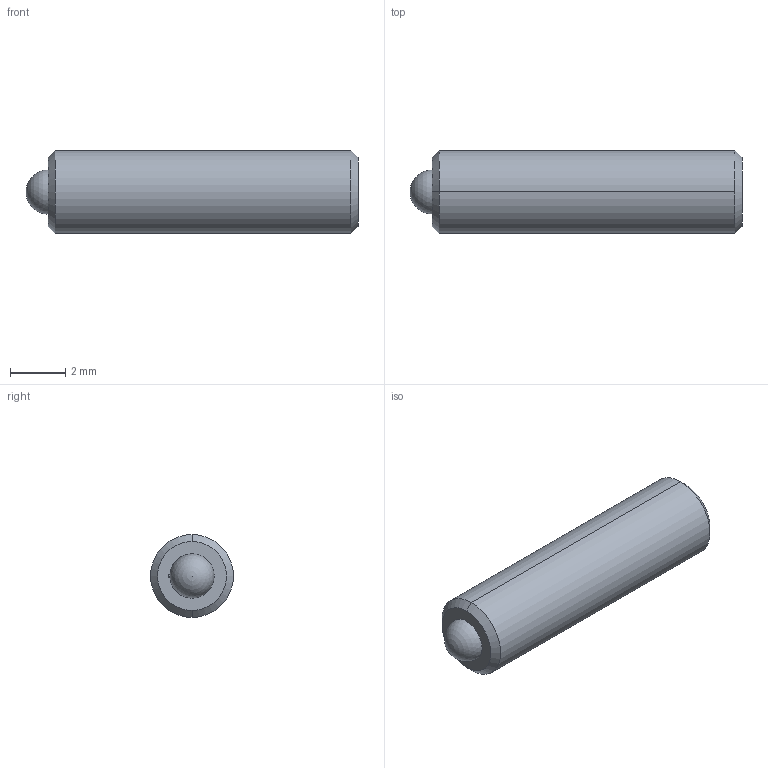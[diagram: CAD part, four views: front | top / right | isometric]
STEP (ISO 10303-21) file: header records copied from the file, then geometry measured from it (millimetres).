
FILE_DESCRIPTION (( 'STEP AP214' ), '1' );
FILE_NAME ('TS3-20-12-HV.STEP', '2013-05-10T16:14:10', ( 'workpc' ), ( 'Microsoft' ), 'SwSTEP 2.0', 'SolidWorks 2013', '' );
FILE_SCHEMA (( 'AUTOMOTIVE_DESIGN' ));
Length unit declared in the file: millimetre
Products named in the file (1): TS3-20-12-HV
Bounding box: 12 x 3 x 3 mm (x, y, z)
Volume: 75.2 mm3; surface area: 139.2 mm2
Topology: 2 solids, 2 shells, 24 faces, 57 edges, 37 vertices
Faces by surface type: plane 10, cylinder 8, cone 4, sphere 2
Entity records: 727 total; most frequent: DIRECTION 124, CARTESIAN_POINT 111, ORIENTED_EDGE 104, EDGE_CURVE 52, AXIS2_PLACEMENT_3D 47, VERTEX_POINT 34, LINE 30, VECTOR 30
